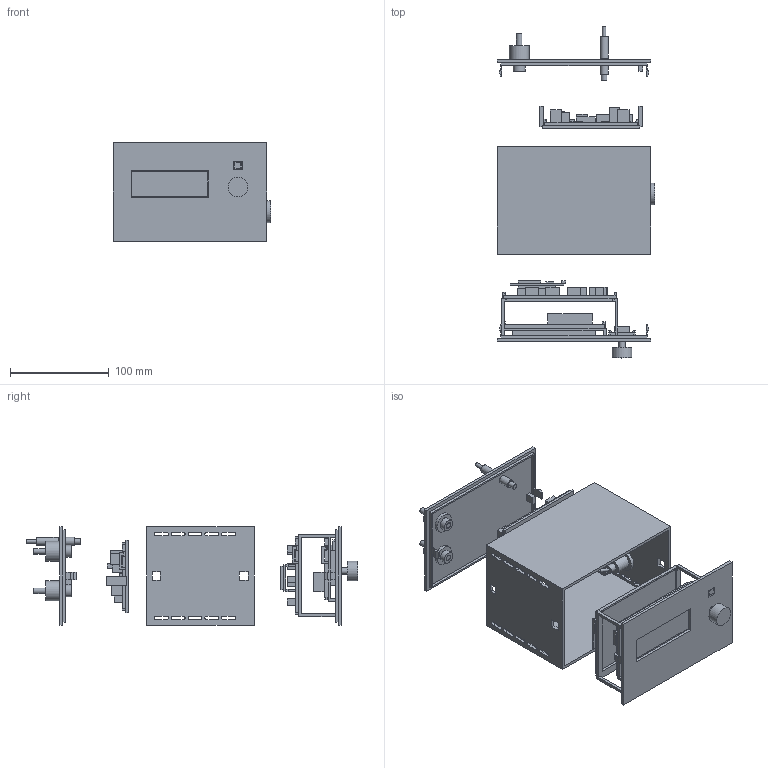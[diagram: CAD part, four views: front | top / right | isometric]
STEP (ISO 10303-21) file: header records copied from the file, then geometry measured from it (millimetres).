
FILE_DESCRIPTION(('Open CASCADE Model'),'2;1');
FILE_NAME('Open CASCADE Shape Model','2026-11-09T10:21:47',('Author'),( 'Open CASCADE'),'Open CASCADE STEP processor 7.8','Open CASCADE 7.8' ,'Unknown');
FILE_SCHEMA(('AUTOMOTIVE_DESIGN { 1 0 10303 214 1 1 1 1 }'));
Length unit declared in the file: millimetre
Products named in the file (103): Exploded_fit_study_v10; 01_Shell_open_front_and_rear; 02_Removable_front_LCD_A; 03_B_removable_carrier; 04_Rear_panel_with_latches; 05_Translucent_optical_insert; 06_BH1750_removable_carrier; BH1750_MODULE_REFERENCE; BH1750_SENSOR_PACKAGE; PCB_A; A_C1_ENVELOPE; A_C2_ENVELOPE; A_C3_ENVELOPE; A_D1_ENVELOPE; A_D2_ENVELOPE; A_J1_ENVELOPE; A_J2_ENVELOPE; A_J3_ENVELOPE; A_J4_ENVELOPE; A_J5_ENVELOPE; A_J6_ENVELOPE; A_J7_ENVELOPE; A_JP1_ENVELOPE; A_R1_ENVELOPE; A_R2_ENVELOPE; A_R3_ENVELOPE; A_R4_ENVELOPE; A_R5_ENVELOPE; A_R6_ENVELOPE; A_R7_ENVELOPE; A_U2_ENVELOPE; PCB_B; B_C1_ENVELOPE; B_C10_ENVELOPE; B_C2_ENVELOPE; B_C3_ENVELOPE; B_C4_ENVELOPE; B_C5_ENVELOPE; B_C6_ENVELOPE; B_C7_ENVELOPE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
Assembly tree (102 placements, depth 2):
  Exploded_fit_study_v10
    01_Shell_open_front_and_rear
    02_Removable_front_LCD_A
    03_B_removable_carrier
    04_Rear_panel_with_latches
    05_Translucent_optical_insert
    06_BH1750_removable_carrier
    BH1750_MODULE_REFERENCE
    BH1750_SENSOR_PACKAGE
    PCB_A
    A_C1_ENVELOPE
    A_C2_ENVELOPE
    A_C3_ENVELOPE
    A_D1_ENVELOPE
    A_D2_ENVELOPE
    A_J1_ENVELOPE
    A_J2_ENVELOPE
    A_J3_ENVELOPE
    A_J4_ENVELOPE
    A_J5_ENVELOPE
    A_J6_ENVELOPE
    A_J7_ENVELOPE
    A_JP1_ENVELOPE
    A_R1_ENVELOPE
    A_R2_ENVELOPE
    A_R3_ENVELOPE
    A_R4_ENVELOPE
    A_R5_ENVELOPE
    A_R6_ENVELOPE
    A_R7_ENVELOPE
    A_U2_ENVELOPE
    PCB_B
    B_C1_ENVELOPE
    B_C10_ENVELOPE
    B_C2_ENVELOPE
    B_C3_ENVELOPE
    B_C4_ENVELOPE
    B_C5_ENVELOPE
    B_C6_ENVELOPE
    B_C7_ENVELOPE
    B_C8_ENVELOPE
    B_C9_ENVELOPE
    B_D2_ENVELOPE
    B_D3_ENVELOPE
    B_D4_ENVELOPE
    B_D5_ENVELOPE
    B_D6_ENVELOPE
    B_D7_ENVELOPE
    B_D8_ENVELOPE
    B_D9_ENVELOPE
    B_F1_ENVELOPE
    B_F2_ENVELOPE
    B_J1_ENVELOPE
    B_J2_ENVELOPE
    B_J3_ENVELOPE
    B_J4_ENVELOPE
    B_J6_ENVELOPE
    B_J7_ENVELOPE
    B_L1_ENVELOPE
    B_Q1_ENVELOPE
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Bounding box: 159 x 336 x 100 mm (x, y, z)
Volume: 416407.9 mm3; surface area: 316469.2 mm2
Topology: 102 solids, 103 shells, 1176 faces, 2789 edges, 1856 vertices
Faces by surface type: plane 1100, cylinder 76
Full cylindrical faces by diameter (mm): 3 x3, 3.5 x2, 5.5 x2, 5.6 x1, 6 x2, 6.3 x3, 6.4 x1, 7.2 x1, 8 x2, 8.2 x1, 9 x1, 12 x4, 12.5 x2, 14 x1, 15 x2, 16 x1, 20 x5, 22 x2
Entity records: 72258 total; most frequent: CARTESIAN_POINT 11554, DIRECTION 11075, LINE 8047, VECTOR 8047, ORIENTED_EDGE 5578, PCURVE 5578, DEFINITIONAL_REPRESENTATION 5578, EDGE_CURVE 2789
